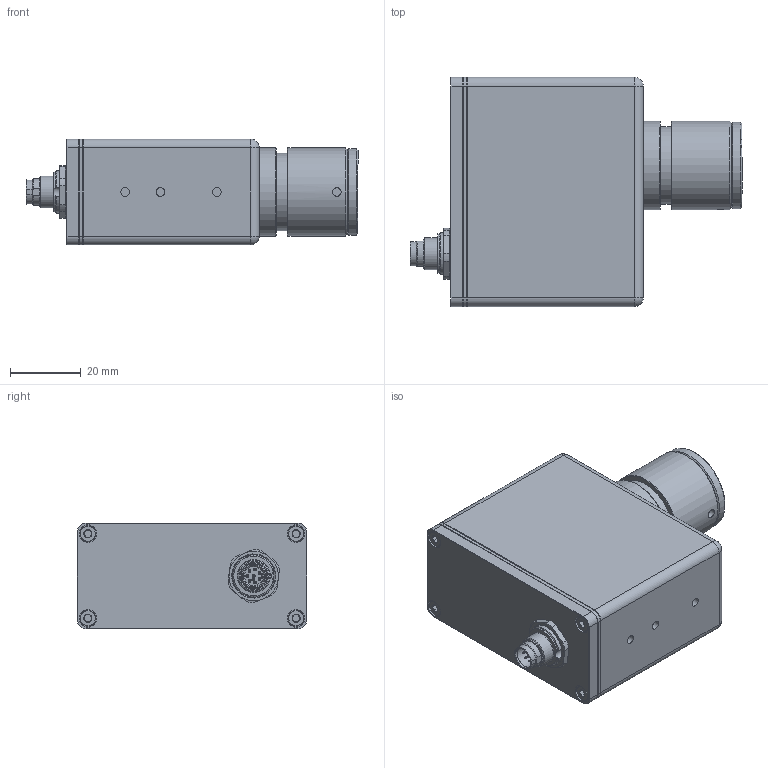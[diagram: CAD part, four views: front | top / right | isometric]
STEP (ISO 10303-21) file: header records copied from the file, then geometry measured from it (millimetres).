
FILE_DESCRIPTION((''),'2;1');
FILE_NAME('C:\Dokumente und Einstellungen\Dr.Maurer\Desktop\Inventor Matthias Kimmerle\KTRD4000\Step Dateien\KTRD4000.stp','2021-05-06T15:18:38',('Dr.Maurer'),(''),'Autodesk Inventor 10','Autodesk Inventor 10','');
FILE_SCHEMA(('AUTOMOTIVE_DESIGN { 1 0 10303 214 1 1 1 1 }'));
Length unit declared in the file: millimetre
Products named in the file (8): Gehäuse; 060902 Gehäuse KTR 4000 Neu; Dichtung; Deckel; Binder-712; A25-15; Linse_15; 91290A102
Assembly tree (10 placements, depth 2):
  Gehäuse
    060902 Gehäuse KTR 4000 Neu
    Dichtung
    Deckel
    Binder-712
    A25-15
    Linse_15
    91290A102  x4
Bounding box: 94.1 x 65 x 30 mm (x, y, z)
Volume: 113462.1 mm3; surface area: 31927.1 mm2
Topology: 10 solids, 10 shells, 590 faces, 1821 edges, 1296 vertices
Faces by surface type: cylinder 201, plane 191, cone 121, bspline 53, sphere 12, torus 12
Full cylindrical faces by diameter (mm): 0.5 x8, 0.6 x8, 1 x8, 2.5 x72, 4.5 x4, 6.1 x1, 8.315 x1, 9 x1, 9.65 x1, 10.25 x1, 12 x1, 14 x1, 15 x2, 15.05 x1, 15.1 x1, 18 x2, 22 x1, 24.5 x1, 25 x2
Entity records: 17041 total; most frequent: CARTESIAN_POINT 6812, DIRECTION 1998, ORIENTED_EDGE 1952, EDGE_CURVE 976, AXIS2_PLACEMENT_3D 808, VERTEX_POINT 738, EDGE_LOOP 666, FACE_OUTER_BOUND 447
